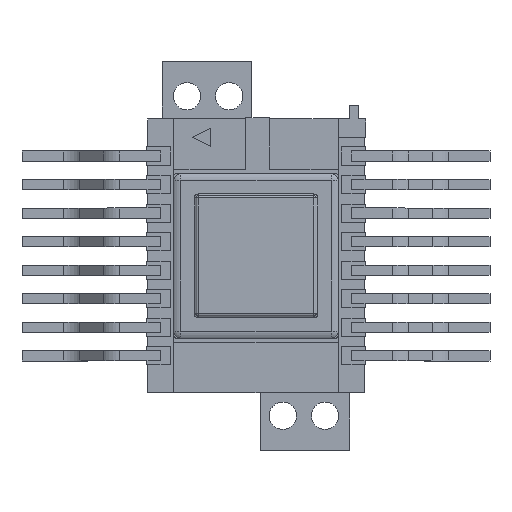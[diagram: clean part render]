
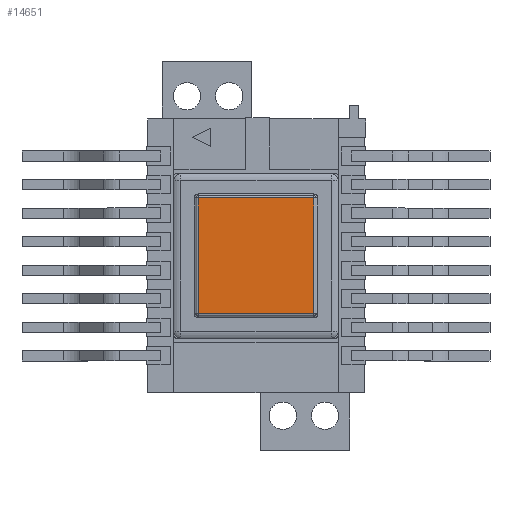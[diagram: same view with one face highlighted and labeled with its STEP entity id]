
A CAD part, top view. The second image highlights one B-rep face of the part: STEP entity #14651.
In plain terms, the highlighted planar face has unit normal (0, 0, 1) as drawn and (0, 0, -1) by its records, which use the part's own axes.
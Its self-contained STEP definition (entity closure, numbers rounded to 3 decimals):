
#749=FACE_OUTER_BOUND('',#1565,.T.);
#1565=EDGE_LOOP('',(#11669,#11670,#11671,#11672));
#3142=LINE('',#22881,#4933);
#3143=LINE('',#22883,#4934);
#3144=LINE('',#22885,#4935);
#3145=LINE('',#22886,#4936);
#4933=VECTOR('',#18265,1.);
#4934=VECTOR('',#18266,1.);
#4935=VECTOR('',#18267,1.);
#4936=VECTOR('',#18268,1.);
#6578=VERTEX_POINT('',#22879);
#6579=VERTEX_POINT('',#22880);
#6580=VERTEX_POINT('',#22882);
#6581=VERTEX_POINT('',#22884);
#8353=EDGE_CURVE('',#6578,#6579,#3142,.T.);
#8354=EDGE_CURVE('',#6579,#6580,#3143,.T.);
#8355=EDGE_CURVE('',#6580,#6581,#3144,.T.);
#8356=EDGE_CURVE('',#6581,#6578,#3145,.T.);
#11669=ORIENTED_EDGE('',*,*,#8353,.T.);
#11670=ORIENTED_EDGE('',*,*,#8354,.T.);
#11671=ORIENTED_EDGE('',*,*,#8355,.T.);
#11672=ORIENTED_EDGE('',*,*,#8356,.T.);
#13712=PLANE('',#15531);
#14651=ADVANCED_FACE('',(#749),#13712,.F.);
#15531=AXIS2_PLACEMENT_3D('',#22878,#18263,#18264);
#18263=DIRECTION('center_axis',(0.,0.,1.));
#18264=DIRECTION('ref_axis',(-1.,0.,0.));
#18265=DIRECTION('',(1.,0.,0.));
#18266=DIRECTION('',(0.,-1.,0.));
#18267=DIRECTION('',(-1.,0.,0.));
#18268=DIRECTION('',(0.,1.,0.));
#22878=CARTESIAN_POINT('Origin',(0.,0.,
-0.85));
#22879=CARTESIAN_POINT('',(-2.538,2.538,-0.85));
#22880=CARTESIAN_POINT('',(2.538,2.538,-0.85));
#22881=CARTESIAN_POINT('',(-2.538,2.538,-0.85));
#22882=CARTESIAN_POINT('',(2.538,-2.538,-0.85));
#22883=CARTESIAN_POINT('',(2.538,2.538,-0.85));
#22884=CARTESIAN_POINT('',(-2.538,-2.538,-0.85));
#22885=CARTESIAN_POINT('',(2.538,-2.538,-0.85));
#22886=CARTESIAN_POINT('',(-2.538,-2.538,-0.85));
